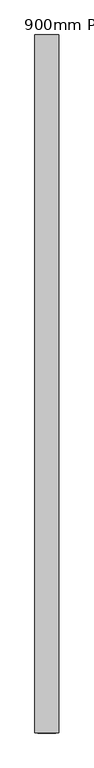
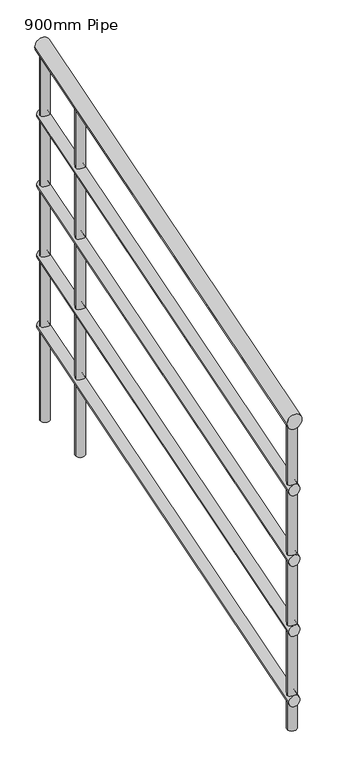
"""IFC4 building model written with IfcOpenShell, lengths in millimetres: railing geometry, 900mm Pipe."""

from ifc_helpers import new_model, si_unit, frame, origin, place, context, project, spatial, circle_curve, ellipse_curve, source, transform, mapped, element, save
from ifc_brep_helpers import plane_surface, cylinder_surface, advanced_brep


def railing_900mm_pipe_ec52811f(model_context):
    return source(origin(), model_context, "Body", "AdvancedBrep", [
        advanced_brep(
        [(983189.0192027, -2958.8436153, 9458.386247), (983229.0192027, -2958.8436153, 9458.386247), (983189.0192027, -1782.0220713, 9816.9744823), (983229.0192027, -1782.0220713, 9816.9744823)],
        [
            (0, 1, ellipse_curve(frame((983209.0192027, -2958.8436153, 9458.386247), z_axis=(0.0, -1.0, 0.0), x_axis=(0.0, 0.0, -1.0)), 20.9078706, 20.0)),
            (1, 0, ellipse_curve(frame((983209.0192027, -2958.8436153, 9458.386247), z_axis=(0.0, -1.0, 0.0), x_axis=(0.0, 0.0, -1.0)), 20.9078706, 20.0)),
            (2, 3, ellipse_curve(frame((983209.0192027, -1782.0220713, 9816.9744823), z_axis=(0.0, 1.0, 0.0), x_axis=(0.0, 0.0, -1.0)), 20.9078706, 20.0)),
            (3, 2, ellipse_curve(frame((983209.0192027, -1782.0220713, 9816.9744823), z_axis=(0.0, 1.0, 0.0), x_axis=(0.0, 0.0, -1.0)), 20.9078706, 20.0)),
            (0, 2),
            (3, 1),
        ],
        [
            plane_surface(frame((983209.0192027, -2958.8436153, 9479.2941176), z_axis=(0.0, -1.0, 0.0), x_axis=(0.0, 0.0, 1.0))),
            plane_surface(frame((983209.0192027, -1782.0220713, 9837.8823529), z_axis=(0.0, 1.0, 0.0), x_axis=(0.0, 0.0, 1.0))),
            cylinder_surface(frame((983209.0192027, -2953.0140575, 9460.1625663), z_axis=(0.0, -0.9565775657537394, -0.291477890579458), x_axis=(1.0, 0.0, 0.0)), 20.0),
        ],
        [
            (0, [[1, 2]]),
            (1, [[3, 4]]),
            (2, [[-1, 5, -4, 6]]),
            (2, [[-2, -6, -3, -5]]),
        ],
    ),
        advanced_brep(
        [(983194.0192027, -2958.8436153, 9263.6132147), (983224.0192027, -2958.8436153, 9263.6132147), (983194.0192027, -1782.0220713, 9622.20145), (983224.0192027, -1782.0220713, 9622.20145)],
        [
            (0, 1, ellipse_curve(frame((983209.0192027, -2958.8436153, 9263.6132147), z_axis=(0.0, -1.0, 0.0), x_axis=(0.0, 0.0, -1.0)), 15.680903, 15.0)),
            (1, 0, ellipse_curve(frame((983209.0192027, -2958.8436153, 9263.6132147), z_axis=(0.0, -1.0, 0.0), x_axis=(0.0, 0.0, -1.0)), 15.680903, 15.0)),
            (2, 3, ellipse_curve(frame((983209.0192027, -1782.0220713, 9622.20145), z_axis=(0.0, 1.0, 0.0), x_axis=(0.0, 0.0, -1.0)), 15.680903, 15.0)),
            (3, 2, ellipse_curve(frame((983209.0192027, -1782.0220713, 9622.20145), z_axis=(0.0, 1.0, 0.0), x_axis=(0.0, 0.0, -1.0)), 15.680903, 15.0)),
            (0, 2),
            (3, 1),
        ],
        [
            plane_surface(frame((983209.0192027, -2958.8436153, 9279.2941176), z_axis=(0.0, -1.0, 0.0), x_axis=(0.0, 0.0, 1.0))),
            plane_surface(frame((983209.0192027, -1782.0220713, 9637.8823529), z_axis=(0.0, 1.0, 0.0), x_axis=(0.0, 0.0, 1.0))),
            cylinder_surface(frame((983209.0192027, -2954.4714469, 9264.9454542), z_axis=(0.0, -0.9565775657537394, -0.291477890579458), x_axis=(1.0, 0.0, 0.0)), 15.0),
        ],
        [
            (0, [[1, 2]]),
            (1, [[3, 4]]),
            (2, [[-1, 5, -4, 6]]),
            (2, [[-2, -6, -3, -5]]),
        ],
    ),
        advanced_brep(
        [(983194.0192027, -2958.8436153, 9063.6132147), (983224.0192027, -2958.8436153, 9063.6132147), (983194.0192027, -1782.0220713, 9422.20145), (983224.0192027, -1782.0220713, 9422.20145)],
        [
            (0, 1, ellipse_curve(frame((983209.0192027, -2958.8436153, 9063.6132147), z_axis=(0.0, -1.0, 0.0), x_axis=(0.0, 0.0, -1.0)), 15.680903, 15.0)),
            (1, 0, ellipse_curve(frame((983209.0192027, -2958.8436153, 9063.6132147), z_axis=(0.0, -1.0, 0.0), x_axis=(0.0, 0.0, -1.0)), 15.680903, 15.0)),
            (2, 3, ellipse_curve(frame((983209.0192027, -1782.0220713, 9422.20145), z_axis=(0.0, 1.0, 0.0), x_axis=(0.0, 0.0, -1.0)), 15.680903, 15.0)),
            (3, 2, ellipse_curve(frame((983209.0192027, -1782.0220713, 9422.20145), z_axis=(0.0, 1.0, 0.0), x_axis=(0.0, 0.0, -1.0)), 15.680903, 15.0)),
            (0, 2),
            (3, 1),
        ],
        [
            plane_surface(frame((983209.0192027, -2958.8436153, 9079.2941176), z_axis=(0.0, -1.0, 0.0), x_axis=(0.0, 0.0, 1.0))),
            plane_surface(frame((983209.0192027, -1782.0220713, 9437.8823529), z_axis=(0.0, 1.0, 0.0), x_axis=(0.0, 0.0, 1.0))),
            cylinder_surface(frame((983209.0192027, -2954.4714469, 9064.9454542), z_axis=(0.0, -0.9565775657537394, -0.291477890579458), x_axis=(1.0, 0.0, 0.0)), 15.0),
        ],
        [
            (0, [[1, 2]]),
            (1, [[3, 4]]),
            (2, [[-1, 5, -4, 6]]),
            (2, [[-2, -6, -3, -5]]),
        ],
    ),
        advanced_brep(
        [(983194.0192027, -2958.8436153, 8863.6132147), (983224.0192027, -2958.8436153, 8863.6132147), (983194.0192027, -1782.0220713, 9222.20145), (983224.0192027, -1782.0220713, 9222.20145)],
        [
            (0, 1, ellipse_curve(frame((983209.0192027, -2958.8436153, 8863.6132147), z_axis=(0.0, -1.0, 0.0), x_axis=(0.0, 0.0, -1.0)), 15.680903, 15.0)),
            (1, 0, ellipse_curve(frame((983209.0192027, -2958.8436153, 8863.6132147), z_axis=(0.0, -1.0, 0.0), x_axis=(0.0, 0.0, -1.0)), 15.680903, 15.0)),
            (2, 3, ellipse_curve(frame((983209.0192027, -1782.0220713, 9222.20145), z_axis=(0.0, 1.0, 0.0), x_axis=(0.0, 0.0, -1.0)), 15.680903, 15.0)),
            (3, 2, ellipse_curve(frame((983209.0192027, -1782.0220713, 9222.20145), z_axis=(0.0, 1.0, 0.0), x_axis=(0.0, 0.0, -1.0)), 15.680903, 15.0)),
            (0, 2),
            (3, 1),
        ],
        [
            plane_surface(frame((983209.0192027, -2958.8436153, 8879.2941176), z_axis=(0.0, -1.0, 0.0), x_axis=(0.0, 0.0, 1.0))),
            plane_surface(frame((983209.0192027, -1782.0220713, 9237.8823529), z_axis=(0.0, 1.0, 0.0), x_axis=(0.0, 0.0, 1.0))),
            cylinder_surface(frame((983209.0192027, -2954.4714469, 8864.9454542), z_axis=(0.0, -0.9565775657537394, -0.291477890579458), x_axis=(1.0, 0.0, 0.0)), 15.0),
        ],
        [
            (0, [[1, 2]]),
            (1, [[3, 4]]),
            (2, [[-1, 5, -4, 6]]),
            (2, [[-2, -6, -3, -5]]),
        ],
    ),
        advanced_brep(
        [(983194.0192027, -2958.8436153, 8663.6132147), (983224.0192027, -2958.8436153, 8663.6132147), (983194.0192027, -1782.0220713, 9022.20145), (983224.0192027, -1782.0220713, 9022.20145)],
        [
            (0, 1, ellipse_curve(frame((983209.0192027, -2958.8436153, 8663.6132147), z_axis=(0.0, -1.0, 0.0), x_axis=(0.0, 0.0, -1.0)), 15.680903, 15.0)),
            (1, 0, ellipse_curve(frame((983209.0192027, -2958.8436153, 8663.6132147), z_axis=(0.0, -1.0, 0.0), x_axis=(0.0, 0.0, -1.0)), 15.680903, 15.0)),
            (2, 3, ellipse_curve(frame((983209.0192027, -1782.0220713, 9022.20145), z_axis=(0.0, 1.0, 0.0), x_axis=(0.0, 0.0, -1.0)), 15.680903, 15.0)),
            (3, 2, ellipse_curve(frame((983209.0192027, -1782.0220713, 9022.20145), z_axis=(0.0, 1.0, 0.0), x_axis=(0.0, 0.0, -1.0)), 15.680903, 15.0)),
            (0, 2),
            (3, 1),
        ],
        [
            plane_surface(frame((983209.0192027, -2958.8436153, 8679.2941176), z_axis=(0.0, -1.0, 0.0), x_axis=(0.0, 0.0, 1.0))),
            plane_surface(frame((983209.0192027, -1782.0220713, 9037.8823529), z_axis=(0.0, 1.0, 0.0), x_axis=(0.0, 0.0, 1.0))),
            cylinder_surface(frame((983209.0192027, -2954.4714469, 8664.9454542), z_axis=(0.0, -0.9565775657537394, -0.291477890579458), x_axis=(1.0, 0.0, 0.0)), 15.0),
        ],
        [
            (0, [[1, 2]]),
            (1, [[3, 4]]),
            (2, [[-1, 5, -4, 6]]),
            (2, [[-2, -6, -3, -5]]),
        ],
    ),
        advanced_brep(
        [(983221.5192027, -1958.8436153, 9742.1874779), (983221.5192027, -1958.8436153, 8758.5882353), (983196.5192027, -1958.8436153, 8758.5882353), (983196.5192027, -1958.8436153, 9742.1874779)],
        [
            (0, 1),
            (1, 2, circle_curve(frame((983209.0192027, -1958.8436153, 8758.5882353), z_axis=(0.0, 0.0, 1.0), x_axis=(-1.0, 0.0, 0.0)), 12.5)),
            (2, 3),
            (3, 0, ellipse_curve(frame((983209.0192027, -1958.8436153, 9742.1874779), z_axis=(0.0, 0.2914778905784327, -0.9565775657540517), x_axis=(0.0, 0.9565775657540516, 0.29147789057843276)), 13.0674191, 12.5)),
            (0, 3, ellipse_curve(frame((983209.0192027, -1958.8436153, 9742.1874779), z_axis=(0.0, 0.2914778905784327, -0.9565775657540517), x_axis=(0.0, 0.9565775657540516, 0.29147789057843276)), 13.0674191, 12.5)),
            (2, 1, circle_curve(frame((983209.0192027, -1958.8436153, 8758.5882353), z_axis=(0.0, 0.0, 1.0), x_axis=(-1.0, 0.0, 0.0)), 12.5)),
        ],
        [
            cylinder_surface(frame((983209.0192027, -1958.8436153, 8658.5882353), z_axis=(0.0, 0.0, 1.0), x_axis=(-1.0, 0.0, 0.0)), 12.5),
            plane_surface(frame((983184.0192027, -1933.8436153, 9749.8052054), z_axis=(0.0, -0.2914778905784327, 0.9565775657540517), x_axis=(1.0, 0.0, 0.0))),
            plane_surface(frame((983184.0192027, -1983.8436153, 8758.5882353), z_axis=(0.0, 0.0, -1.0), x_axis=(1.0, 0.0, 0.0))),
        ],
        [
            (0, [[1, 2, 3, 4]]),
            (0, [[-1, 5, -3, 6]]),
            (1, [[-4, -5]]),
            (2, [[-2, -6]]),
        ],
    ),
        advanced_brep(
        [(983221.5192027, -1794.5220713, 9792.2577479), (983221.5192027, -1794.5220713, 8758.5882353), (983196.5192027, -1794.5220713, 8758.5882353), (983196.5192027, -1794.5220713, 9792.2577479)],
        [
            (0, 1),
            (1, 2, circle_curve(frame((983209.0192027, -1794.5220713, 8758.5882353), z_axis=(0.0, 0.0, 1.0), x_axis=(-1.0, 0.0, 0.0)), 12.5)),
            (2, 3),
            (3, 0, ellipse_curve(frame((983209.0192027, -1794.5220713, 9792.2577479), z_axis=(0.0, 0.2914778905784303, -0.9565775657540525), x_axis=(0.0, 0.9565775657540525, 0.2914778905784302)), 13.0674191, 12.5)),
            (0, 3, ellipse_curve(frame((983209.0192027, -1794.5220713, 9792.2577479), z_axis=(0.0, 0.2914778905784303, -0.9565775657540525), x_axis=(0.0, 0.9565775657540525, 0.2914778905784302)), 13.0674191, 12.5)),
            (2, 1, circle_curve(frame((983209.0192027, -1794.5220713, 8758.5882353), z_axis=(0.0, 0.0, 1.0), x_axis=(-1.0, 0.0, 0.0)), 12.5)),
        ],
        [
            cylinder_surface(frame((983209.0192027, -1794.5220713, 8658.5882353), z_axis=(0.0, 0.0, 1.0), x_axis=(-1.0, 0.0, 0.0)), 12.5),
            plane_surface(frame((983184.0192027, -1769.5220713, 9799.8754754), z_axis=(0.0, -0.2914778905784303, 0.9565775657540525), x_axis=(1.0, 0.0, 0.0))),
            plane_surface(frame((983184.0192027, -1819.5220713, 8758.5882353), z_axis=(0.0, 0.0, -1.0), x_axis=(1.0, 0.0, 0.0))),
        ],
        [
            (0, [[1, 2, 3, 4]]),
            (0, [[-1, 5, -3, 6]]),
            (1, [[-4, -5]]),
            (2, [[-2, -6]]),
        ],
    ),
        advanced_brep(
        [(983221.5192027, -2946.3436153, 9441.2872401), (983221.5192027, -2946.3436153, 8579.2941176), (983196.5192027, -2946.3436153, 8579.2941176), (983196.5192027, -2946.3436153, 9441.2872401)],
        [
            (0, 1),
            (1, 2, circle_curve(frame((983209.0192027, -2946.3436153, 8579.2941176), z_axis=(0.0, 0.0, 1.0), x_axis=(-1.0, 0.0, 0.0)), 12.5)),
            (2, 3),
            (3, 0, ellipse_curve(frame((983209.0192027, -2946.3436153, 9441.2872401), z_axis=(0.0, 0.2914778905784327, -0.9565775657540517), x_axis=(0.0, 0.9565775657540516, 0.29147789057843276)), 13.0674191, 12.5)),
            (0, 3, ellipse_curve(frame((983209.0192027, -2946.3436153, 9441.2872401), z_axis=(0.0, 0.2914778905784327, -0.9565775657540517), x_axis=(0.0, 0.9565775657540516, 0.29147789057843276)), 13.0674191, 12.5)),
            (2, 1, circle_curve(frame((983209.0192027, -2946.3436153, 8579.2941176), z_axis=(0.0, 0.0, 1.0), x_axis=(-1.0, 0.0, 0.0)), 12.5)),
        ],
        [
            cylinder_surface(frame((983209.0192027, -2946.3436153, 8479.2941176), z_axis=(0.0, 0.0, 1.0), x_axis=(-1.0, 0.0, 0.0)), 12.5),
            plane_surface(frame((983184.0192027, -2921.3436153, 9448.9049677), z_axis=(0.0, -0.2914778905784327, 0.9565775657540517), x_axis=(1.0, 0.0, 0.0))),
            plane_surface(frame((983184.0192027, -2971.3436153, 8579.2941176), z_axis=(0.0, 0.0, -1.0), x_axis=(1.0, 0.0, 0.0))),
        ],
        [
            (0, [[1, 2, 3, 4]]),
            (0, [[-1, 5, -3, 6]]),
            (1, [[-4, -5]]),
            (2, [[-2, -6]]),
        ],
    ),
    ])


if __name__ == "__main__":
    model = new_model("IFC4")
    model_context = context("Model", 3, world=origin())
    ifc_project = project(units=[si_unit("LENGTHUNIT", "METRE", prefix="MILLI")], contexts=[model_context])
    site = spatial("IfcSite", under=ifc_project)
    building = spatial("IfcBuilding", under=site)
    placement = place(None, origin())
    railing_900mm_pipe_shape = railing_900mm_pipe_ec52811f(model_context)
    element("IfcRailing", 1, ObjectType="900mm Pipe", at=placement, inside=building, context=model_context, shape_type="MappedRepresentation", body=[
        mapped(railing_900mm_pipe_shape, transform((0.0, 0.0, 0.0), x_axis=(1.0, 0.0, 0.0), y_axis=(0.0, 1.0, 0.0), z_axis=(0.0, 0.0, 1.0))),
    ])
    save(model, "model.ifc")
